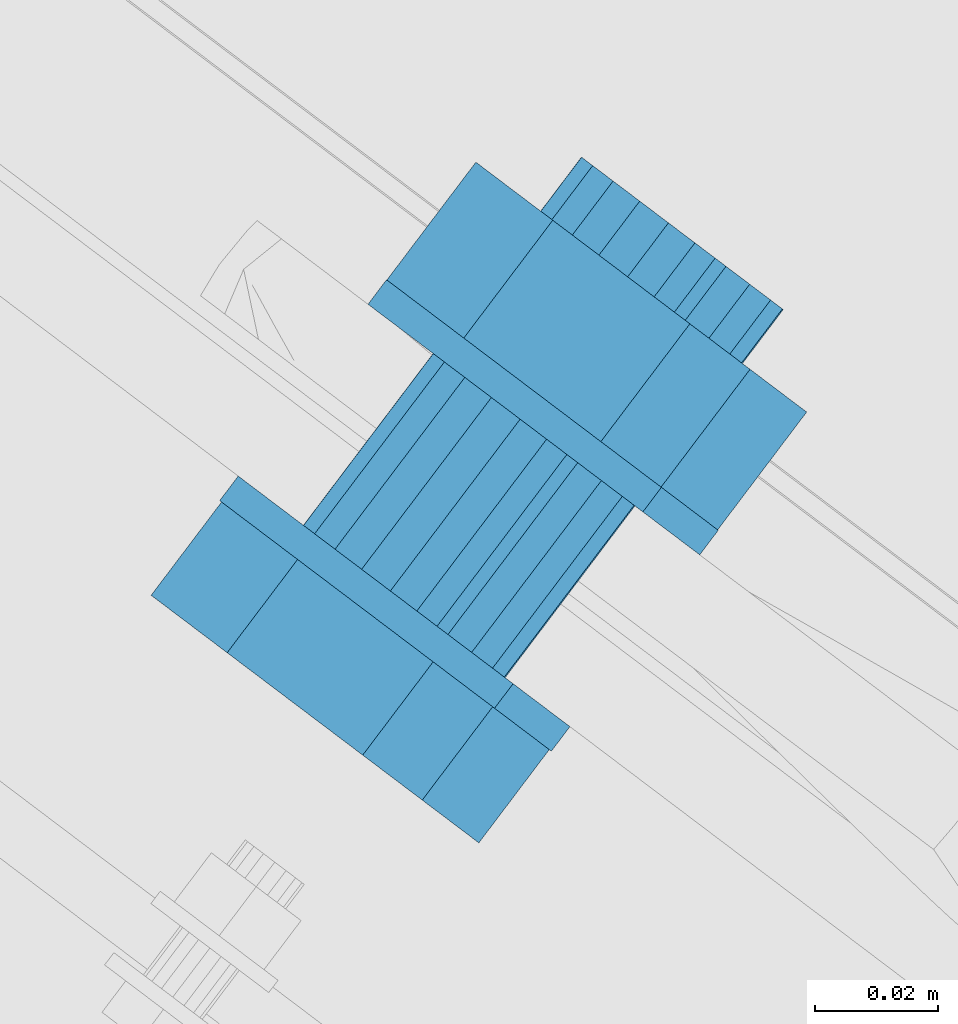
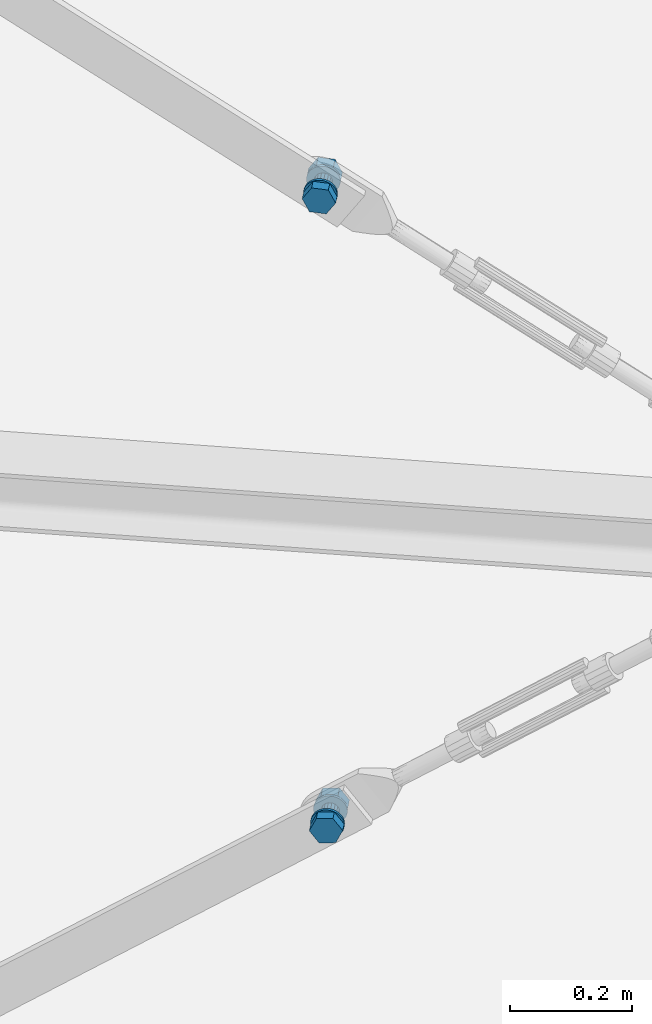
# One storey, part 162 of 476: 2 mechanical fasteners.
"""IFC2X3 building model written with IfcOpenShell, lengths in millimetres."""

from ifc_helpers import new_model, entity, si_unit, converted_unit, origin_with_axes, place, context, project, spatial, faceted_brep, element, save


model = new_model("IFC2X3")

# Units and contexts
model_context = context("Model", 3, precision=1e-09, world=origin_with_axes())
ifc_project = project(units=[si_unit("LENGTHUNIT", "METRE", prefix="MILLI"), si_unit("AREAUNIT", "SQUARE_METRE"), si_unit("VOLUMEUNIT", "CUBIC_METRE"), converted_unit("PLANEANGLEUNIT", "DEGREE", entity("IfcPlaneAngleMeasure", 0.01745329), si_unit("PLANEANGLEUNIT", "RADIAN"), dimensions=[0, 0, 0, 0, 0, 0, 0])], contexts=[model_context])

# Site, building, storey
site_placement = place(None, origin_with_axes())
site = spatial("IfcSite", under=ifc_project, at=site_placement, Name="mKR Teilneubau & Sanierung BA1 - Ostfildern", CompositionType="ELEMENT")
building_placement = place(site_placement, origin_with_axes())
building = spatial("IfcBuilding", under=site, at=building_placement, Name="Struktur 1", CompositionType="ELEMENT")
storey_placement = place(building_placement, origin_with_axes())
storey = spatial("IfcBuildingStorey", under=building, at=storey_placement, Name="Default Storey", CompositionType="ELEMENT", Elevation=0.0)

# Mechanical fasteners
mechanical_fastener_1_placement = place(None, origin_with_axes())
element("IfcMechanicalFastener", 1, at=mechanical_fastener_1_placement, inside=storey, ObjectType="-", NominalDiameter=30.0, NominalLength=80.0, context=model_context, shape_type="Brep", body=[
    faceted_brep([(7421.1271703, -5383.188116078, 3543.074917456), (7424.140842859, -5379.198407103, 3543.074917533), (7422.057983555, -5377.625095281, 3538.246349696), (7419.044310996, -5381.614804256, 3538.246349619), (7420.766812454, -5376.649794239, 3533.001319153), (7417.753139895, -5380.639503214, 3533.001319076), (7420.316948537, -5376.309984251, 3527.541389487), (7417.303275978, -5380.299693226, 3527.541389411), (7420.725679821, -5376.618724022, 3522.076382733), (7417.712007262, -5380.608432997, 3522.076382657), (7421.977298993, -5377.564148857, 3516.816316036), (7418.963626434, -5381.553857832, 3516.81631596), (7424.02370703, -5379.10992661, 3511.96333081), (7421.010034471, -5383.099635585, 3511.963330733), (7426.786261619, -5381.196653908, 3507.703924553), (7423.77258906, -5385.186362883, 3507.703924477), (7430.158799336, -5383.744138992, 3504.201783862), (7427.145126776, -5387.733847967, 3504.201783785), (7434.011715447, -5386.654483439, 3501.591494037), (7430.998042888, -5390.644192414, 3501.59149396), (7438.196944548, -5389.815844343, 3499.973367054), (7435.183271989, -5393.805553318, 3499.973366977), (7442.553650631, -5393.106732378, 3499.409586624), (7439.539978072, -5397.096441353, 3499.409586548), (7446.914407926, -5396.400680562, 3499.921818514), (7443.900735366, -5400.390389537, 3499.921818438), (7451.111634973, -5399.571104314, 3501.49037794), (7448.097962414, -5403.560813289, 3501.490377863), (7454.984034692, -5402.496166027, 3504.054986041), (7451.970362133, -5406.485875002, 3504.054985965), (7458.382792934, -5405.06345722, 3507.517086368), (7455.369120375, -5409.053166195, 3507.517086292), (7461.177297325, -5407.174318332, 3511.743632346), (7458.163624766, -5411.164027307, 3511.743632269), (7463.260156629, -5408.747630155, 3516.572200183), (7460.246484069, -5412.73733913, 3516.572200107), (7464.55132773, -5409.722931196, 3521.817230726), (7461.53765517, -5413.712640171, 3521.817230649), (7465.001191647, -5410.062741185, 3527.277160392), (7461.987519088, -5414.05245016, 3527.277160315), (7464.592460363, -5409.754001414, 3532.742167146), (7461.578787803, -5413.743710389, 3532.742167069), (7463.34084119, -5408.808576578, 3538.002233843), (7460.327168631, -5412.798285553, 3538.002233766), (7461.294433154, -5407.262798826, 3542.85521907), (7458.280760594, -5411.252507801, 3542.855218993), (7458.531878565, -5405.176071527, 3547.114625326), (7455.518206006, -5409.165780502, 3547.114625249), (7455.159340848, -5402.628586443, 3550.616766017), (7452.145668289, -5406.618295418, 3550.616765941), (7451.306424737, -5399.718241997, 3553.227055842), (7448.292752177, -5403.707950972, 3553.227055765), (7447.121195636, -5396.556881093, 3554.845182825), (7444.107523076, -5400.546590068, 3554.845182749), (7442.764489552, -5393.265993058, 3555.408963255), (7439.750816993, -5397.255702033, 3555.408963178), (7438.403732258, -5389.972044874, 3554.896731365), (7435.390059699, -5393.961753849, 3554.896731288), (7434.206505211, -5386.801621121, 3553.328171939), (7431.192832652, -5390.791330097, 3553.328171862), (7430.334105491, -5383.876559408, 3550.763563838), (7427.320432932, -5387.866268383, 3550.763563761), (7426.93534725, -5381.309268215, 3547.301463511), (7423.92167469, -5385.29897719, 3547.301463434)], [[[0, 1, 2, 3]], [[3, 2, 4, 5]], [[5, 4, 6, 7]], [[7, 6, 8, 9]], [[9, 8, 10, 11]], [[11, 10, 12, 13]], [[13, 12, 14, 15]], [[15, 14, 16, 17]], [[17, 16, 18, 19]], [[19, 18, 20, 21]], [[21, 20, 22, 23]], [[23, 22, 24, 25]], [[25, 24, 26, 27]], [[27, 26, 28, 29]], [[29, 28, 30, 31]], [[31, 30, 32, 33]], [[33, 32, 34, 35]], [[35, 34, 36, 37]], [[37, 36, 38, 39]], [[39, 38, 40, 41]], [[41, 40, 42, 43]], [[43, 42, 44, 45]], [[45, 44, 46, 47]], [[47, 46, 48, 49]], [[49, 48, 50, 51]], [[51, 50, 52, 53]], [[53, 52, 54, 55]], [[55, 54, 56, 57]], [[57, 56, 58, 59]], [[59, 58, 60, 61]], [[61, 60, 62, 63]], [[63, 62, 1, 0]], [[0, 3, 5, 7, 9, 11, 13, 15, 17, 19, 21, 23, 25, 27, 29, 31, 33, 35, 37, 39, 41, 43, 45, 47, 49, 51, 53, 55, 57, 59, 61, 63]], [[1, 62, 60, 58, 56, 54, 52, 50, 48, 46, 44, 42, 40, 38, 36, 34, 32, 30, 28, 26, 24, 22, 20, 18, 16, 14, 12, 10, 8, 6, 4, 2]]]),
    faceted_brep([(7449.322412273, -5404.485715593, 3502.521854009), (7437.870456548, -5419.646609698, 3502.521853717), (7415.833799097, -5403.000967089, 3504.462867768), (7427.285754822, -5387.840072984, 3504.46286806), (7406.156784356, -5395.69132319, 3529.350288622), (7417.608740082, -5380.530429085, 3529.350288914), (7418.516427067, -5405.027321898, 3552.296695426), (7429.968382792, -5389.866427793, 3552.296695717), (7440.553084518, -5421.672964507, 3550.355681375), (7452.005040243, -5406.512070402, 3550.355681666), (7450.230099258, -5428.982608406, 3525.468260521), (7461.682054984, -5413.821714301, 3525.468260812)], [[[0, 1, 2, 3]], [[3, 2, 4, 5]], [[5, 4, 6, 7]], [[7, 6, 8, 9]], [[9, 8, 10, 11]], [[11, 10, 1, 0]], [[4, 2, 1, 10, 8, 6]], [[0, 3, 5, 7, 9, 11]]]),
    faceted_brep([(7432.738591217, -5385.692815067, 3535.801583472), (7453.834299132, -5357.764852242, 3535.801584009), (7452.026782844, -5356.399523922, 3530.405013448), (7430.931074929, -5384.327486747, 3530.405012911), (7452.004747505, -5356.382879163, 3524.552368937), (7430.90903959, -5384.310841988, 3524.552368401), (7453.771547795, -5357.717451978, 3519.13466255), (7432.67583988, -5385.645414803, 3519.134662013), (7457.058204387, -5360.200065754, 3514.97669097), (7435.962496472, -5388.128028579, 3514.976690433), (7461.364353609, -5363.452765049, 3512.71146768), (7440.268645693, -5391.380727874, 3512.711467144), (7466.034423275, -5366.980355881, 3512.683852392), (7444.93871536, -5394.908318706, 3512.683851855), (7470.357437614, -5370.245794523, 3514.898049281), (7449.261729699, -5398.173757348, 3514.898048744), (7473.675256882, -5372.751947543, 3519.016966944), (7452.579548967, -5400.679910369, 3519.016966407), (7475.48277317, -5374.117275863, 3524.413537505), (7454.387065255, -5402.045238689, 3524.413536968), (7475.504808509, -5374.133920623, 3530.266182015), (7454.409100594, -5402.061883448, 3530.266181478), (7473.738008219, -5372.799347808, 3535.683888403), (7452.642300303, -5400.727310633, 3535.683887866), (7470.451351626, -5370.316734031, 3539.841859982), (7449.355643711, -5398.244696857, 3539.841859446), (7466.145202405, -5367.064034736, 3542.107083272), (7445.04949449, -5394.991997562, 3542.107082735), (7461.475132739, -5363.536443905, 3542.134698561), (7440.379424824, -5391.46440673, 3542.134698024), (7457.1521184, -5360.271005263, 3539.920501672), (7436.056410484, -5388.198968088, 3539.920501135)], [[[0, 1, 2, 3]], [[3, 2, 4, 5]], [[5, 4, 6, 7]], [[7, 6, 8, 9]], [[9, 8, 10, 11]], [[11, 10, 12, 13]], [[13, 12, 14, 15]], [[15, 14, 16, 17]], [[17, 16, 18, 19]], [[19, 18, 20, 21]], [[21, 20, 22, 23]], [[23, 22, 24, 25]], [[25, 24, 26, 27]], [[27, 26, 28, 29]], [[29, 28, 30, 31]], [[31, 30, 1, 0]], [[0, 3, 5, 7, 9, 11, 13, 15, 17, 19, 21, 23, 25, 27, 29, 31]], [[1, 30, 28, 26, 24, 22, 20, 18, 16, 14, 12, 10, 8, 6, 4, 2]]]),
    faceted_brep([(7445.236550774, -5351.270444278, 3543.07491807), (7448.250223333, -5347.280735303, 3543.074918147), (7446.16736403, -5345.707423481, 3538.246350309), (7443.15369147, -5349.697132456, 3538.246350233), (7444.876192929, -5344.732122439, 3533.001319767), (7441.862520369, -5348.721831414, 3533.00131969), (7444.426329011, -5344.39231245, 3527.541390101), (7441.412656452, -5348.382021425, 3527.541390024), (7444.835060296, -5344.701052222, 3522.076383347), (7441.821387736, -5348.690761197, 3522.07638327), (7446.086679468, -5345.646477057, 3516.81631665), (7443.073006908, -5349.636186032, 3516.816316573), (7448.133087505, -5347.19225481, 3511.963331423), (7445.119414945, -5351.181963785, 3511.963331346), (7450.895642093, -5349.278982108, 3507.703925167), (7447.881969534, -5353.268691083, 3507.70392509), (7454.26817981, -5351.826467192, 3504.201784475), (7451.254507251, -5355.816176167, 3504.201784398), (7458.121095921, -5354.736811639, 3501.591494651), (7455.107423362, -5358.726520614, 3501.591494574), (7462.306325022, -5357.898172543, 3499.973367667), (7459.292652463, -5361.887881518, 3499.973367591), (7466.663031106, -5361.189060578, 3499.409587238), (7463.649358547, -5365.178769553, 3499.409587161), (7471.0237884, -5364.483008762, 3499.921819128), (7468.010115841, -5368.472717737, 3499.921819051), (7475.221015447, -5367.653432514, 3501.490378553), (7472.207342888, -5371.643141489, 3501.490378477), (7479.093415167, -5370.578494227, 3504.054986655), (7476.079742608, -5374.568203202, 3504.054986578), (7482.492173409, -5373.14578542, 3507.517086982), (7479.478500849, -5377.135494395, 3507.517086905), (7485.286677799, -5375.256646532, 3511.74363296), (7482.27300524, -5379.246355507, 3511.743632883), (7487.369537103, -5376.829958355, 3516.572200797), (7484.355864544, -5380.81966733, 3516.57220072), (7488.660708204, -5377.805259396, 3521.81723134), (7485.647035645, -5381.794968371, 3521.817231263), (7489.110572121, -5378.145069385, 3527.277161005), (7486.096899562, -5382.13477836, 3527.277160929), (7488.701840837, -5377.836329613, 3532.742167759), (7485.688168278, -5381.826038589, 3532.742167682), (7487.450221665, -5376.890904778, 3538.002234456), (7484.436549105, -5380.880613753, 3538.002234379), (7485.403813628, -5375.345127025, 3542.855219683), (7482.390141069, -5379.334836, 3542.855219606), (7482.641259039, -5373.258399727, 3547.114625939), (7479.62758648, -5377.248108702, 3547.114625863), (7479.268721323, -5370.710914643, 3550.616766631), (7476.255048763, -5374.700623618, 3550.616766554), (7475.415805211, -5367.800570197, 3553.227056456), (7472.402132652, -5371.790279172, 3553.227056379), (7471.23057611, -5364.639209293, 3554.845183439), (7468.216903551, -5368.628918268, 3554.845183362), (7466.873870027, -5361.348321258, 3555.408963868), (7463.860197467, -5365.338030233, 3555.408963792), (7462.513112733, -5358.054373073, 3554.896731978), (7459.499440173, -5362.044082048, 3554.896731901), (7458.315885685, -5354.883949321, 3553.328172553), (7455.302213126, -5358.873658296, 3553.328172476), (7454.443485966, -5351.958887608, 3550.763564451), (7451.429813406, -5355.948596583, 3550.763564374), (7451.044727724, -5349.391596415, 3547.301464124), (7448.031055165, -5353.38130539, 3547.301464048)], [[[0, 1, 2, 3]], [[3, 2, 4, 5]], [[5, 4, 6, 7]], [[7, 6, 8, 9]], [[9, 8, 10, 11]], [[11, 10, 12, 13]], [[13, 12, 14, 15]], [[15, 14, 16, 17]], [[17, 16, 18, 19]], [[19, 18, 20, 21]], [[21, 20, 22, 23]], [[23, 22, 24, 25]], [[25, 24, 26, 27]], [[27, 26, 28, 29]], [[29, 28, 30, 31]], [[31, 30, 32, 33]], [[33, 32, 34, 35]], [[35, 34, 36, 37]], [[37, 36, 38, 39]], [[39, 38, 40, 41]], [[41, 40, 42, 43]], [[43, 42, 44, 45]], [[45, 44, 46, 47]], [[47, 46, 48, 49]], [[49, 48, 50, 51]], [[51, 50, 52, 53]], [[53, 52, 54, 55]], [[55, 54, 56, 57]], [[57, 56, 58, 59]], [[59, 58, 60, 61]], [[61, 60, 62, 63]], [[63, 62, 1, 0]], [[0, 3, 5, 7, 9, 11, 13, 15, 17, 19, 21, 23, 25, 27, 29, 31, 33, 35, 37, 39, 41, 43, 45, 47, 49, 51, 53, 55, 57, 59, 61, 63]], [[1, 62, 60, 58, 56, 54, 52, 50, 48, 46, 44, 42, 40, 38, 36, 34, 32, 30, 28, 26, 24, 22, 20, 18, 16, 14, 12, 10, 8, 6, 4, 2]]]),
    faceted_brep([(7491.02119869, -5349.510900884, 3502.23868593), (7476.555570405, -5368.661503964, 3502.238685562), (7454.26817981, -5351.826467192, 3504.201784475), (7468.733808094, -5332.675864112, 3504.201784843), (7444.481059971, -5344.433654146, 3529.372374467), (7458.946688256, -5325.283051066, 3529.372374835), (7456.981330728, -5353.875877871, 3552.579865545), (7471.446959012, -5334.725274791, 3552.579865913), (7479.268721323, -5370.710914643, 3550.616766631), (7493.734349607, -5351.560311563, 3550.616766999), (7489.055841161, -5378.10372769, 3525.446176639), (7503.521469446, -5358.95312461, 3525.446177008)], [[[0, 1, 2, 3]], [[3, 2, 4, 5]], [[5, 4, 6, 7]], [[7, 6, 8, 9]], [[9, 8, 10, 11]], [[11, 10, 1, 0]], [[4, 2, 1, 10, 8, 6]], [[0, 3, 5, 7, 9, 11]]]),
    faceted_brep([(7471.313599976, -5334.624540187, 3535.801584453), (7477.943679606, -5325.847180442, 3535.801584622), (7476.136163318, -5324.481852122, 3530.405014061), (7469.506083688, -5333.259211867, 3530.405013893), (7476.114127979, -5324.465207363, 3524.552369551), (7469.484048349, -5333.242567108, 3524.552369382), (7477.88092827, -5325.799780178, 3519.134663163), (7471.250848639, -5334.577139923, 3519.134662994), (7481.167584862, -5328.282393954, 3514.976691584), (7474.537505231, -5337.059753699, 3514.976691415), (7485.473734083, -5331.535093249, 3512.711468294), (7478.843654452, -5340.312452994, 3512.711468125), (7490.143803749, -5335.06268408, 3512.683853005), (7483.513724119, -5343.840043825, 3512.683852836), (7494.466818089, -5338.328122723, 3514.898049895), (7487.836738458, -5347.105482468, 3514.898049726), (7497.784637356, -5340.834275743, 3519.016967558), (7491.154557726, -5349.611635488, 3519.016967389), (7499.592153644, -5342.199604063, 3524.413538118), (7492.962074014, -5350.976963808, 3524.41353795), (7499.614188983, -5342.216248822, 3530.266182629), (7492.984109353, -5350.993608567, 3530.26618246), (7497.847388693, -5340.881676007, 3535.683889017), (7491.217309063, -5349.659035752, 3535.683888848), (7494.560732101, -5338.399062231, 3539.841860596), (7487.93065247, -5347.176421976, 3539.841860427), (7490.25458288, -5335.146362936, 3542.107083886), (7483.624503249, -5343.923722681, 3542.107083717), (7485.584513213, -5331.618772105, 3542.134699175), (7478.954433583, -5340.396131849, 3542.134699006), (7481.261498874, -5328.353333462, 3539.920502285), (7474.631419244, -5337.130693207, 3539.920502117)], [[[0, 1, 2, 3]], [[3, 2, 4, 5]], [[5, 4, 6, 7]], [[7, 6, 8, 9]], [[9, 8, 10, 11]], [[11, 10, 12, 13]], [[13, 12, 14, 15]], [[15, 14, 16, 17]], [[17, 16, 18, 19]], [[19, 18, 20, 21]], [[21, 20, 22, 23]], [[23, 22, 24, 25]], [[25, 24, 26, 27]], [[27, 26, 28, 29]], [[29, 28, 30, 31]], [[31, 30, 1, 0]], [[0, 3, 5, 7, 9, 11, 13, 15, 17, 19, 21, 23, 25, 27, 29, 31]], [[1, 30, 28, 26, 24, 22, 20, 18, 16, 14, 12, 10, 8, 6, 4, 2]]]),
])
mechanical_fastener_2_placement = place(None, origin_with_axes())
element("IfcMechanicalFastener", 2, at=mechanical_fastener_2_placement, inside=storey, ObjectType="-", NominalDiameter=30.0, NominalLength=80.0, context=model_context, shape_type="Brep", body=[
    faceted_brep([(7430.689603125, -5390.411194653, 2255.223468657), (7433.703275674, -5386.42148567, 2255.223468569), (7436.580309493, -5388.594686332, 2251.084802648), (7433.566636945, -5392.584395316, 2251.084802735), (7440.046331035, -5391.212785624, 2247.729071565), (7437.032658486, -5395.202494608, 2247.729071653), (7443.968143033, -5394.175171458, 2245.285234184), (7440.954470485, -5398.164880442, 2245.285234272), (7448.195032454, -5397.368001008, 2243.847205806), (7445.181359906, -5401.357709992, 2243.847205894), (7452.564562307, -5400.668575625, 2243.470249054), (7449.550889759, -5404.658284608, 2243.470249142), (7456.90881401, -5403.950056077, 2244.168850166), (7453.895141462, -5407.93976506, 2244.168850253), (7461.060840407, -5407.086336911, 2245.916162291), (7458.047167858, -5411.076045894, 2245.916162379), (7464.861081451, -5409.956892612, 2248.645037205), (7461.847408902, -5413.946601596, 2248.645037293), (7468.16349601, -5412.451409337, 2252.250605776), (7465.149823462, -5416.44111832, 2252.250605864), (7470.841174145, -5414.474024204, 2256.594308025), (7467.827501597, -5418.463733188, 2256.594308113), (7472.791214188, -5415.947009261, 2261.509217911), (7469.77754164, -5419.936718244, 2261.509217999), (7473.938677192, -5416.813758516, 2266.806458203), (7470.925004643, -5420.803467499, 2266.806458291), (7474.239466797, -5417.040963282, 2272.282458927), (7471.225794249, -5421.030672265, 2272.282459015), (7473.682023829, -5416.619892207, 2277.726780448), (7470.668351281, -5420.609601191, 2277.726780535), (7472.287770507, -5415.566726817, 2282.930200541), (7469.274097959, -5419.556435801, 2282.930200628), (7470.110287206, -5413.921939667, 2287.69275469), (7467.096614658, -5417.911648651, 2287.692754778), (7467.233253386, -5411.748739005, 2291.831420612), (7464.219580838, -5415.738447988, 2291.8314207), (7463.767231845, -5409.130639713, 2295.187151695), (7460.753559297, -5413.120348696, 2295.187151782), (7459.845419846, -5406.168253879, 2297.630989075), (7456.831747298, -5410.157962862, 2297.630989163), (7455.618530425, -5402.975424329, 2299.069017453), (7452.604857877, -5406.965133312, 2299.069017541), (7451.249000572, -5399.674849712, 2299.445974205), (7448.235328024, -5403.664558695, 2299.445974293), (7446.904748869, -5396.39336926, 2298.747373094), (7443.891076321, -5400.383078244, 2298.747373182), (7442.752722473, -5393.257088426, 2297.000060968), (7439.739049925, -5397.24679741, 2297.000061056), (7438.952481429, -5390.386532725, 2294.271186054), (7435.938808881, -5394.376241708, 2294.271186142), (7435.650066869, -5387.892016, 2290.665617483), (7432.636394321, -5391.881724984, 2290.665617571), (7432.972388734, -5385.869401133, 2286.321915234), (7429.958716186, -5389.859110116, 2286.321915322), (7431.022348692, -5384.396416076, 2281.407005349), (7428.008676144, -5388.38612506, 2281.407005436), (7429.874885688, -5383.529666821, 2276.109765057), (7426.86121314, -5387.519375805, 2276.109765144), (7429.574096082, -5383.302462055, 2270.633764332), (7426.560423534, -5387.292171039, 2270.63376442), (7430.13153905, -5383.72353313, 2265.189442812), (7427.117866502, -5387.713242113, 2265.1894429), (7431.525792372, -5384.77669852, 2259.986022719), (7428.512119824, -5388.766407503, 2259.986022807)], [[[0, 1, 2, 3]], [[3, 2, 4, 5]], [[5, 4, 6, 7]], [[7, 6, 8, 9]], [[9, 8, 10, 11]], [[11, 10, 12, 13]], [[13, 12, 14, 15]], [[15, 14, 16, 17]], [[17, 16, 18, 19]], [[19, 18, 20, 21]], [[21, 20, 22, 23]], [[23, 22, 24, 25]], [[25, 24, 26, 27]], [[27, 26, 28, 29]], [[29, 28, 30, 31]], [[31, 30, 32, 33]], [[33, 32, 34, 35]], [[35, 34, 36, 37]], [[37, 36, 38, 39]], [[39, 38, 40, 41]], [[41, 40, 42, 43]], [[43, 42, 44, 45]], [[45, 44, 46, 47]], [[47, 46, 48, 49]], [[49, 48, 50, 51]], [[51, 50, 52, 53]], [[53, 52, 54, 55]], [[55, 54, 56, 57]], [[57, 56, 58, 59]], [[59, 58, 60, 61]], [[61, 60, 62, 63]], [[63, 62, 1, 0]], [[0, 3, 5, 7, 9, 11, 13, 15, 17, 19, 21, 23, 25, 27, 29, 31, 33, 35, 37, 39, 41, 43, 45, 47, 49, 51, 53, 55, 57, 59, 61, 63]], [[1, 62, 60, 58, 56, 54, 52, 50, 48, 46, 44, 42, 40, 38, 36, 34, 32, 30, 28, 26, 24, 22, 20, 18, 16, 14, 12, 10, 8, 6, 4, 2]]]),
    faceted_brep([(7470.884736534, -5420.773050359, 2274.081340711), (7459.432780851, -5435.933944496, 2274.081341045), (7450.249717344, -5428.997412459, 2248.901684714), (7461.701673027, -5413.836518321, 2248.90168438), (7428.258089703, -5412.385783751, 2246.278455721), (7439.710045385, -5397.224889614, 2246.278455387), (7415.449525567, -5402.710687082, 2268.834883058), (7426.90148125, -5387.549792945, 2268.834882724), (7424.632589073, -5409.64721912, 2294.014539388), (7436.084544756, -5394.486324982, 2294.014539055), (7446.624216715, -5426.258847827, 2296.637768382), (7458.076172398, -5411.09795369, 2296.637768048)], [[[0, 1, 2, 3]], [[3, 2, 4, 5]], [[5, 4, 6, 7]], [[7, 6, 8, 9]], [[9, 8, 10, 11]], [[11, 10, 1, 0]], [[4, 2, 1, 10, 8, 6]], [[0, 3, 5, 7, 9, 11]]]),
    faceted_brep([(7442.154903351, -5392.805519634, 2262.760981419), (7463.250611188, -5364.877556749, 2262.760980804), (7466.64867656, -5367.444324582, 2258.746125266), (7445.552968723, -5395.372287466, 2258.746125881), (7471.01405232, -5370.741761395, 2256.666554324), (7449.918344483, -5398.669724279, 2256.666554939), (7475.682149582, -5374.267862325, 2256.838863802), (7454.586441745, -5402.195825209, 2256.838864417), (7479.942292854, -5377.485810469, 2259.236821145), (7458.846585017, -5405.413773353, 2259.236821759), (7483.14591394, -5379.905702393, 2263.495359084), (7462.050206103, -5407.833665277, 2263.495359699), (7484.805290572, -5381.159131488, 2268.966153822), (7463.709582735, -5409.087094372, 2268.966154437), (7484.6677977, -5381.055274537, 2274.816326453), (7463.572089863, -5408.983237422, 2274.816327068), (7482.754367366, -5379.609942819, 2280.155241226), (7461.658659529, -5407.537905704, 2280.155241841), (7479.356301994, -5377.043174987, 2284.170096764), (7458.260594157, -5404.971137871, 2284.170097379), (7474.990926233, -5373.745738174, 2286.249667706), (7453.895218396, -5401.673701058, 2286.249668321), (7470.322828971, -5370.219637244, 2286.077358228), (7449.227121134, -5398.147600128, 2286.077358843), (7466.062685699, -5367.0016891, 2283.679400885), (7444.966977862, -5394.929651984, 2283.6794015), (7462.859064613, -5364.581797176, 2279.420862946), (7441.763356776, -5392.50976006, 2279.420863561), (7461.199687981, -5363.328368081, 2273.950068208), (7440.103980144, -5391.256330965, 2273.950068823), (7461.337180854, -5363.432225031, 2268.099895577), (7440.241473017, -5391.360187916, 2268.099896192)], [[[0, 1, 2, 3]], [[3, 2, 4, 5]], [[5, 4, 6, 7]], [[7, 6, 8, 9]], [[9, 8, 10, 11]], [[11, 10, 12, 13]], [[13, 12, 14, 15]], [[15, 14, 16, 17]], [[17, 16, 18, 19]], [[19, 18, 20, 21]], [[21, 20, 22, 23]], [[23, 22, 24, 25]], [[25, 24, 26, 27]], [[27, 26, 28, 29]], [[29, 28, 30, 31]], [[31, 30, 1, 0]], [[0, 3, 5, 7, 9, 11, 13, 15, 17, 19, 21, 23, 25, 27, 29, 31]], [[1, 30, 28, 26, 24, 22, 20, 18, 16, 14, 12, 10, 8, 6, 4, 2]]]),
    faceted_brep([(7454.798983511, -5358.493522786, 2255.223467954), (7457.812656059, -5354.503813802, 2255.223467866), (7460.689689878, -5356.677014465, 2251.084801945), (7457.67601733, -5360.666723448, 2251.084802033), (7464.15571142, -5359.295113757, 2247.729070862), (7461.142038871, -5363.28482274, 2247.72907095), (7468.077523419, -5362.257499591, 2245.285233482), (7465.06385087, -5366.247208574, 2245.28523357), (7472.304412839, -5365.450329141, 2243.847205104), (7469.290740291, -5369.440038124, 2243.847205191), (7476.673942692, -5368.750903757, 2243.470248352), (7473.660270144, -5372.740612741, 2243.47024844), (7481.018194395, -5372.032384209, 2244.168849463), (7478.004521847, -5376.022093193, 2244.168849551), (7485.170220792, -5375.168665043, 2245.916161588), (7482.156548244, -5379.158374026, 2245.916161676), (7488.970461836, -5378.039220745, 2248.645036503), (7485.956789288, -5382.028929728, 2248.64503659), (7492.272876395, -5380.533737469, 2252.250605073), (7489.259203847, -5384.523446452, 2252.250605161), (7494.950554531, -5382.556352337, 2256.594307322), (7491.936881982, -5386.54606132, 2256.59430741), (7496.900594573, -5384.029337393, 2261.509217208), (7493.886922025, -5388.019046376, 2261.509217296), (7498.048057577, -5384.896086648, 2266.8064575), (7495.034385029, -5388.885795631, 2266.806457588), (7498.348847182, -5385.123291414, 2272.282458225), (7495.335174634, -5389.113000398, 2272.282458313), (7497.791404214, -5384.70222034, 2277.726779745), (7494.777731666, -5388.691929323, 2277.726779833), (7496.397150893, -5383.64905495, 2282.930199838), (7493.383478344, -5387.638763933, 2282.930199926), (7494.219667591, -5382.0042678, 2287.692753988), (7491.205995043, -5385.993976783, 2287.692754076), (7491.342633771, -5379.831067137, 2291.831419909), (7488.328961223, -5383.820776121, 2291.831419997), (7487.87661223, -5377.212967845, 2295.187150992), (7484.862939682, -5381.202676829, 2295.18715108), (7483.954800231, -5374.250582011, 2297.630988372), (7480.941127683, -5378.240290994, 2297.63098846), (7479.72791081, -5371.057752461, 2299.069016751), (7476.714238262, -5375.047461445, 2299.069016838), (7475.358380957, -5367.757177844, 2299.445973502), (7472.344708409, -5371.746886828, 2299.44597359), (7471.014129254, -5364.475697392, 2298.747372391), (7468.000456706, -5368.465406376, 2298.747372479), (7466.862102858, -5361.339416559, 2297.000060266), (7463.84843031, -5365.329125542, 2297.000060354), (7463.061861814, -5358.468860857, 2294.271185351), (7460.048189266, -5362.45856984, 2294.271185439), (7459.759447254, -5355.974344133, 2290.665616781), (7456.745774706, -5359.964053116, 2290.665616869), (7457.081769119, -5353.951729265, 2286.321914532), (7454.068096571, -5357.941438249, 2286.32191462), (7455.131729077, -5352.478744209, 2281.407004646), (7452.118056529, -5356.468453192, 2281.407004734), (7453.984266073, -5351.611994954, 2276.109764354), (7450.970593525, -5355.601703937, 2276.109764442), (7453.683476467, -5351.384790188, 2270.633763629), (7450.669803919, -5355.374499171, 2270.633763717), (7454.240919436, -5351.805861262, 2265.189442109), (7451.227246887, -5355.795570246, 2265.189442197), (7455.635172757, -5352.859026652, 2259.986022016), (7452.621500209, -5356.848735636, 2259.986022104)], [[[0, 1, 2, 3]], [[3, 2, 4, 5]], [[5, 4, 6, 7]], [[7, 6, 8, 9]], [[9, 8, 10, 11]], [[11, 10, 12, 13]], [[13, 12, 14, 15]], [[15, 14, 16, 17]], [[17, 16, 18, 19]], [[19, 18, 20, 21]], [[21, 20, 22, 23]], [[23, 22, 24, 25]], [[25, 24, 26, 27]], [[27, 26, 28, 29]], [[29, 28, 30, 31]], [[31, 30, 32, 33]], [[33, 32, 34, 35]], [[35, 34, 36, 37]], [[37, 36, 38, 39]], [[39, 38, 40, 41]], [[41, 40, 42, 43]], [[43, 42, 44, 45]], [[45, 44, 46, 47]], [[47, 46, 48, 49]], [[49, 48, 50, 51]], [[51, 50, 52, 53]], [[53, 52, 54, 55]], [[55, 54, 56, 57]], [[57, 56, 58, 59]], [[59, 58, 60, 61]], [[61, 60, 62, 63]], [[63, 62, 1, 0]], [[0, 3, 5, 7, 9, 11, 13, 15, 17, 19, 21, 23, 25, 27, 29, 31, 33, 35, 37, 39, 41, 43, 45, 47, 49, 51, 53, 55, 57, 59, 61, 63]], [[1, 62, 60, 58, 56, 54, 52, 50, 48, 46, 44, 42, 40, 38, 36, 34, 32, 30, 28, 26, 24, 22, 20, 18, 16, 14, 12, 10, 8, 6, 4, 2]]]),
    faceted_brep([(7512.723638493, -5365.904073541, 2274.111186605), (7498.258010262, -5385.054676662, 2274.111187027), (7488.970461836, -5378.039220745, 2248.645036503), (7503.436090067, -5358.888617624, 2248.645036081), (7466.728613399, -5361.238584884, 2245.991960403), (7481.19424163, -5342.087981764, 2245.991959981), (7453.774313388, -5351.45340494, 2268.805034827), (7468.239941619, -5332.30280182, 2268.805034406), (7463.061861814, -5358.468860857, 2294.271185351), (7477.527490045, -5339.318257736, 2294.27118493), (7485.303710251, -5375.269496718, 2296.924261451), (7499.769338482, -5356.118893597, 2296.92426103)], [[[0, 1, 2, 3]], [[3, 2, 4, 5]], [[5, 4, 6, 7]], [[7, 6, 8, 9]], [[9, 8, 10, 11]], [[11, 10, 1, 0]], [[4, 2, 1, 10, 8, 6]], [[0, 3, 5, 7, 9, 11]]]),
    faceted_brep([(7480.729911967, -5341.737244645, 2262.760980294), (7487.359991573, -5332.959884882, 2262.760980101), (7490.758056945, -5335.526652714, 2258.746124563), (7484.127977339, -5344.304012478, 2258.746124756), (7495.123432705, -5338.824089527, 2256.666553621), (7488.4933531, -5347.601449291, 2256.666553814), (7499.791529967, -5342.350190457, 2256.838863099), (7493.161450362, -5351.12755022, 2256.838863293), (7504.051673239, -5345.568138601, 2259.236820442), (7497.421593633, -5354.345498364, 2259.236820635), (7507.255294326, -5347.988030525, 2263.495358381), (7500.62521472, -5356.765390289, 2263.495358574), (7508.914670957, -5349.241459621, 2268.966153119), (7502.284591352, -5358.018819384, 2268.966153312), (7508.777178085, -5349.13760267, 2274.81632575), (7502.147098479, -5357.914962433, 2274.816325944), (7506.863747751, -5347.692270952, 2280.155240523), (7500.233668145, -5356.469630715, 2280.155240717), (7503.465682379, -5345.125503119, 2284.170096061), (7496.835602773, -5353.902862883, 2284.170096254), (7499.100306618, -5341.828066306, 2286.249667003), (7492.470227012, -5350.60542607, 2286.249667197), (7494.432209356, -5338.301965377, 2286.077357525), (7487.80212975, -5347.07932514, 2286.077357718), (7490.172066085, -5335.084017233, 2283.679400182), (7483.541986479, -5343.861376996, 2283.679400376), (7486.968444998, -5332.664125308, 2279.420862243), (7480.338365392, -5341.441485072, 2279.420862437), (7485.309068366, -5331.410696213, 2273.950067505), (7478.67898876, -5340.188055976, 2273.950067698), (7485.446561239, -5331.514553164, 2268.099894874), (7478.816481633, -5340.291912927, 2268.099895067)], [[[0, 1, 2, 3]], [[3, 2, 4, 5]], [[5, 4, 6, 7]], [[7, 6, 8, 9]], [[9, 8, 10, 11]], [[11, 10, 12, 13]], [[13, 12, 14, 15]], [[15, 14, 16, 17]], [[17, 16, 18, 19]], [[19, 18, 20, 21]], [[21, 20, 22, 23]], [[23, 22, 24, 25]], [[25, 24, 26, 27]], [[27, 26, 28, 29]], [[29, 28, 30, 31]], [[31, 30, 1, 0]], [[0, 3, 5, 7, 9, 11, 13, 15, 17, 19, 21, 23, 25, 27, 29, 31]], [[1, 30, 28, 26, 24, 22, 20, 18, 16, 14, 12, 10, 8, 6, 4, 2]]]),
])

save(model, "model.ifc")
